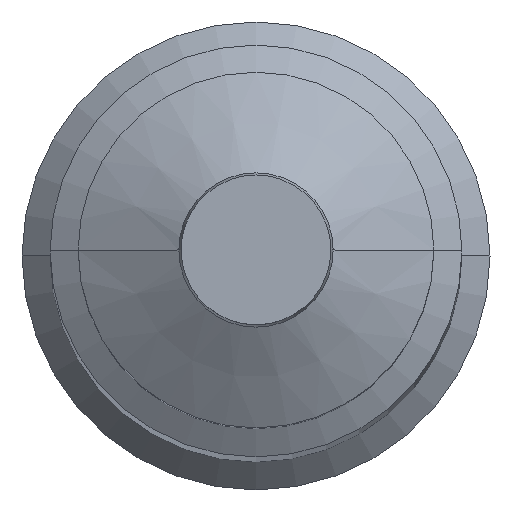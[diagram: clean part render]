
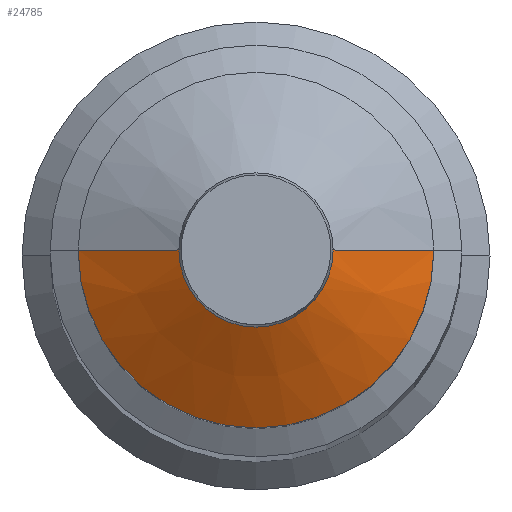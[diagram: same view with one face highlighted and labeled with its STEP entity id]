
A CAD part, top view. The second image highlights one B-rep face of the part: STEP entity #24785.
In plain terms, the highlighted conical face has half-angle 60 degrees and reference radius 38 mm.
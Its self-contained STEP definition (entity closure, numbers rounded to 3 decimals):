
#117 = FACE_OUTER_BOUND ( 'NONE', #12863, .T. ) ;
#123 = CONICAL_SURFACE ( 'NONE', #26091, 38., 1.047 ) ;
#262 = CARTESIAN_POINT ( 'NONE',  ( 0., 0., 772.277 ) ) ;
#263 = DIRECTION ( 'NONE',  ( 0., 0., -1. ) ) ;
#264 = DIRECTION ( 'NONE',  ( 1., 0., 0. ) ) ;
#1522 = CARTESIAN_POINT ( 'NONE',  ( -16.482, 0., 784.7 ) ) ;
#1534 = CARTESIAN_POINT ( 'NONE',  ( 16.482, 0., 784.7 ) ) ;
#1586 = CARTESIAN_POINT ( 'NONE',  ( 38., 0., 772.277 ) ) ;
#1587 = CARTESIAN_POINT ( 'NONE',  ( -38., 0., 772.277 ) ) ;
#11436 = ORIENTED_EDGE ( 'NONE', *, *, #23842, .T. ) ;
#11437 = ORIENTED_EDGE ( 'NONE', *, *, #23843, .T. ) ;
#11438 = ORIENTED_EDGE ( 'NONE', *, *, #23844, .F. ) ;
#11439 = ORIENTED_EDGE ( 'NONE', *, *, #23845, .F. ) ;
#12863 = EDGE_LOOP ( 'NONE', ( #11436, #11437, #11438, #11439 ) ) ;
#13206 = LINE ( 'NONE', #26920, #13208 ) ;
#13207 = CIRCLE ( 'NONE', #25591, 16.482 ) ;
#13208 = VECTOR ( 'NONE', #26921, 1000. ) ;
#13209 = LINE ( 'NONE', #26925, #13211 ) ;
#13210 = CIRCLE ( 'NONE', #25592, 38. ) ;
#13211 = VECTOR ( 'NONE', #26926, 1000. ) ;
#23842 = EDGE_CURVE ( 'NONE', #24896, #24884, #13207, .T. ) ;
#23843 = EDGE_CURVE ( 'NONE', #24884, #24949, #13206, .T. ) ;
#23844 = EDGE_CURVE ( 'NONE', #24948, #24949, #13210, .T. ) ;
#23845 = EDGE_CURVE ( 'NONE', #24896, #24948, #13209, .T. ) ;
#24785 = ADVANCED_FACE ( 'NONE', ( #117 ), #123, .T. ) ;
#24884 = VERTEX_POINT ( 'NONE', #1522 ) ;
#24896 = VERTEX_POINT ( 'NONE', #1534 ) ;
#24948 = VERTEX_POINT ( 'NONE', #1586 ) ;
#24949 = VERTEX_POINT ( 'NONE', #1587 ) ;
#25591 = AXIS2_PLACEMENT_3D ( 'NONE', #26917, #26918, #26919 ) ;
#25592 = AXIS2_PLACEMENT_3D ( 'NONE', #26922, #26923, #26924 ) ;
#26091 = AXIS2_PLACEMENT_3D ( 'NONE', #262, #263, #264 ) ;
#26917 = CARTESIAN_POINT ( 'NONE',  ( 0., 0., 784.7 ) ) ;
#26918 = DIRECTION ( 'NONE',  ( 0., 0., -1. ) ) ;
#26919 = DIRECTION ( 'NONE',  ( 1., 0., 0. ) ) ;
#26920 = CARTESIAN_POINT ( 'NONE',  ( -38., 0., 772.277 ) ) ;
#26921 = DIRECTION ( 'NONE',  ( -0.866, 0., -0.5 ) ) ;
#26922 = CARTESIAN_POINT ( 'NONE',  ( 0., 0., 772.277 ) ) ;
#26923 = DIRECTION ( 'NONE',  ( 0., 0., -1. ) ) ;
#26924 = DIRECTION ( 'NONE',  ( 1., 0., 0. ) ) ;
#26925 = CARTESIAN_POINT ( 'NONE',  ( 38., 0., 772.277 ) ) ;
#26926 = DIRECTION ( 'NONE',  ( 0.866, 0., -0.5 ) ) ;
